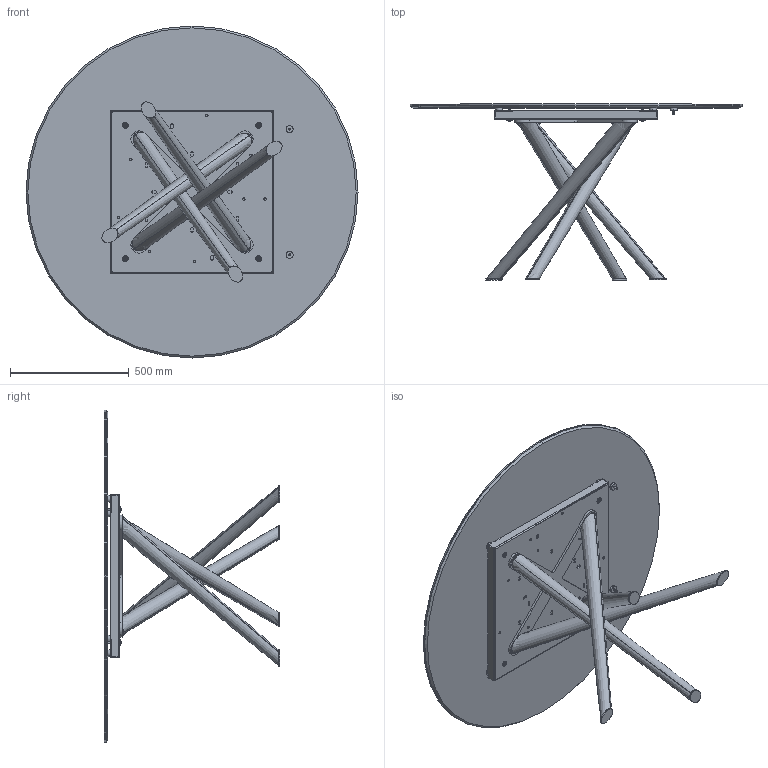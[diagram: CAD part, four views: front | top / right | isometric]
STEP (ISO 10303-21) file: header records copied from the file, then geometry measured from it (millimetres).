
FILE_DESCRIPTION (( 'STEP AP203' ), '1' );
FILE_NAME ('BA06C.STEP', '2024-08-08T06:34:43', ( '' ), ( '' ), 'SwSTEP 2.0', 'SolidWorks 2022', '' );
FILE_SCHEMA (( 'CONFIG_CONTROL_DESIGN' ));
Length unit declared in the file: millimetre
Products named in the file (15): M8xXXmm_M8x20mm; BAB000000_01-00-Croce Superiore baly; M8xXXmm_M8x55mm; TTAV0801 TELAIO UNIVERSALE TONDO-PIASTRINA; rondella M8_8X24; Parte5^BAB000000-00-BALY BASE GREZZA; K1XCMXX-00-Piani Rotondi in ceramica_D.1400; 434070-00-PIEDINO TPV GOMMA NERO D. 30x8max18; BAB000000-00-BALY BASE GREZZA; TTAV0801-02-TELAIO UNIVERSALE TONDO-VASSOIO; TTAV0801-02-TELAIO UNIVERSALE TONDO; COLLO TELAIO UNIVERSALE TTAV0801 CON FERRAMENTA_MTG TOP LEGNO-MARMO-KING; rondella M8_8X16; BAB000000_02-00-basamento pali conificati; BA06C
Assembly tree (34 placements, depth 4):
  BA06C
    K1XCMXX-00-Piani Rotondi in ceramica_D.1400
    BAB000000-00-BALY BASE GREZZA
      BAB000000_01-00-Croce Superiore baly
      BAB000000_02-00-basamento pali conificati
      Parte5^BAB000000-00-BALY BASE GREZZA
    COLLO TELAIO UNIVERSALE TTAV0801 CON FERRAMENTA_MTG TOP LEGNO-MARMO-KING
      TTAV0801-02-TELAIO UNIVERSALE TONDO
        TTAV0801-02-TELAIO UNIVERSALE TONDO-VASSOIO
        TTAV0801 TELAIO UNIVERSALE TONDO-PIASTRINA  x4
      rondella M8_8X24  x4
      M8xXXmm_M8x55mm  x4
    434070-00-PIEDINO TPV GOMMA NERO D. 30x8max18  x6
    M8xXXmm_M8x20mm  x4
    rondella M8_8X16  x4
Bounding box: 1400 x 741 x 1400 mm (x, y, z)
Volume: 29221845.9 mm3; surface area: 9042791.8 mm2
Topology: 44 solids, 44 shells, 951 faces, 2291 edges, 1420 vertices
Faces by surface type: plane 400, cylinder 317, torus 120, cone 106, bspline 8
Entity records: 18827 total; most frequent: CARTESIAN_POINT 4418, DIRECTION 2642, ORIENTED_EDGE 2508, EDGE_CURVE 1254, AXIS2_PLACEMENT_3D 966, VERTEX_POINT 802, LINE 710, VECTOR 710
